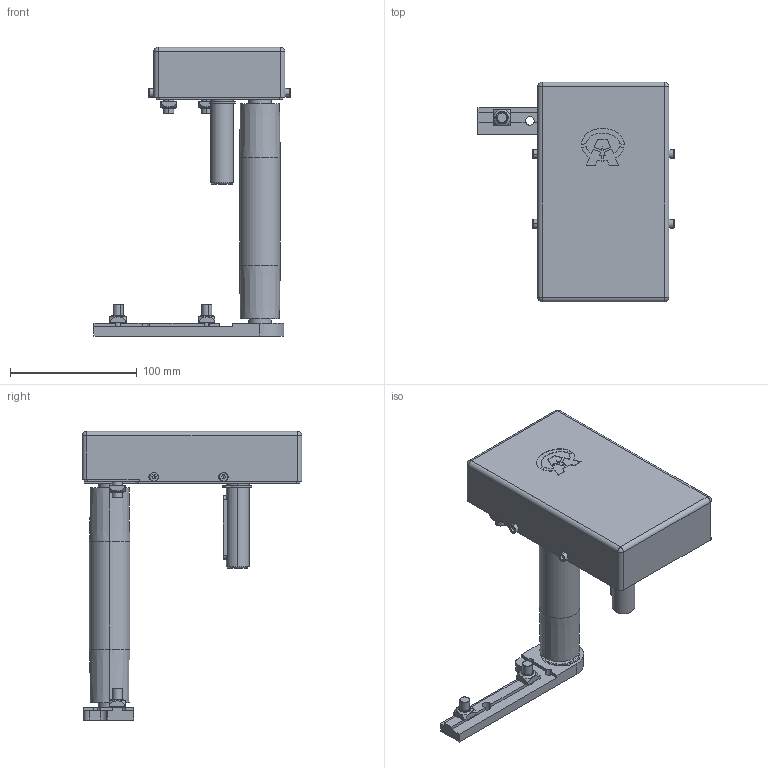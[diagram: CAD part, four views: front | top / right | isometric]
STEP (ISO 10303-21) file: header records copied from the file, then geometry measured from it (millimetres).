
FILE_DESCRIPTION (( 'STEP AP203' ), '1' );
FILE_NAME ('084.030.KT.44.150.STEP', '2019-07-29T09:55:26', ( '' ), ( '' ), 'SwSTEP 2.0', 'SolidWorks 2018', '' );
FILE_SCHEMA (( 'CONFIG_CONTROL_DESIGN' ));
Length unit declared in the file: millimetre
Products named in the file (19): 62012RSBOMB_62012RSBOMB; 627.005.003-1; 084.030.KT.44.150; 627.001.008; 084.301.000 VITI ALUSIC_084.301.003; 084.801.027 sx; CHIAVETTE_A 6x6x50 UNI 6604-69; CHIAVETTE_A 4x4x10 UNI 6604-69; 627.001.009; Circlip DIN 471 - 18 x 1.2_Circlip DIN 471 - 18 x 1.2; 084.801.055; 084.801.053; ISO 4762 M4 x 12 --- 12S_ISO 4762 M4 x 12 --- 12S; 084.801.042; CUSCINETTI A SFERE INOX_608-2RS INOX; 084.801.030; 627.001.015; 084.302.000 DADI ALUSIC 13x13-1_084.302.004; 084.801.032
Assembly tree (30 placements, depth 2):
  084.030.KT.44.150
    084.801.053
    627.005.003-1
    084.801.032
    084.801.042
    627.001.015
    627.001.009
    627.001.008
    084.801.030
    62012RSBOMB_62012RSBOMB  x2
    084.301.000 VITI ALUSIC_084.301.003  x4
    084.302.000 DADI ALUSIC 13x13-1_084.302.004  x4
    084.801.055
    084.801.027 sx
    CUSCINETTI A SFERE INOX_608-2RS INOX  x2
    Circlip DIN 471 - 18 x 1.2_Circlip DIN 471 - 18 x 1.2
    CHIAVETTE_A 6x6x50 UNI 6604-69
    CHIAVETTE_A 4x4x10 UNI 6604-69  x2
    ISO 4762 M4 x 12 --- 12S_ISO 4762 M4 x 12 --- 12S  x4
Bounding box: 154.75 x 173.5 x 228.5 mm (x, y, z)
Volume: 418041.8 mm3; surface area: 193823.5 mm2
Topology: 30 solids, 30 shells, 1768 faces, 4753 edges, 3065 vertices
Faces by surface type: plane 694, cylinder 654, cone 316, torus 64, bspline 24, sphere 16
Entity records: 42932 total; most frequent: CARTESIAN_POINT 7669, DIRECTION 7131, ORIENTED_EDGE 6850, EDGE_CURVE 3425, AXIS2_PLACEMENT_3D 2498, VERTEX_POINT 2250, VECTOR 2135, LINE 2135
